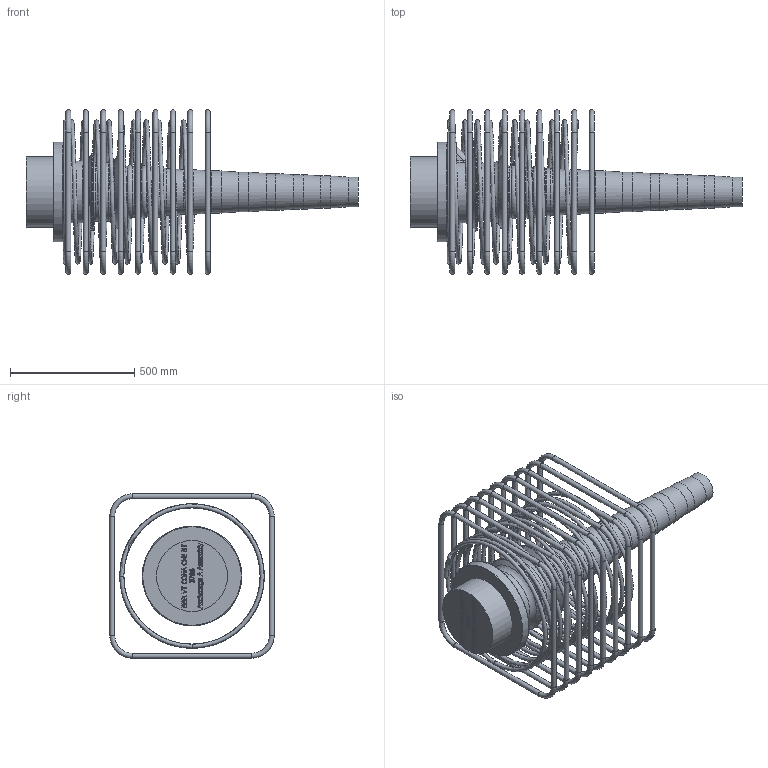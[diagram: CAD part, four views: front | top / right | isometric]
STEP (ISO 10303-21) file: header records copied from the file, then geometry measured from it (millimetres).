
FILE_DESCRIPTION(/* description */ (''),/* implementation_level */ '2;1');
FILE_NAME(/* name */ 'Z:\04 Publications\05 Give-out\BBR\6_3D_Models\BBR VT CONA CMI\BBR VT CONA CMI BT\03706\BBR VT CONA CMI BT 3706_Anchorage A Assembly_CS-34,28.stp',/* time_stamp */ '2017-05-05T10:51:31+02:00',/* author */ ('IP'),/* organization */ (''),/* preprocessor_version */ 'ST-DEVELOPER v16.1',/* originating_system */ 'Autodesk Inventor 2016',/* authorisation */ '');
FILE_SCHEMA (('AUTOMOTIVE_DESIGN { 1 0 10303 214 3 1 1 }'));
Length unit declared in the file: millimetre
Products named in the file (1): BBR VT CONA CMI BT 3706_Anchorage A Assembly_CS-34,28
Bounding box: 1333.56 x 660 x 660 mm (x, y, z)
Volume: 55084003.3 mm3; surface area: 3504198.5 mm2
Topology: 11 solids, 11 shells, 778 faces, 2013 edges, 1293 vertices
Faces by surface type: plane 323, bspline 307, torus 76, cylinder 59, cone 11, sphere 2
Full cylindrical faces by diameter (mm): 20 x36, 35 x1, 57 x1, 119 x1, 129 x1, 139 x1, 149 x1, 159 x1, 169 x1, 179 x1, 235 x1, 285 x1, 313 x1, 328 x1, 400 x1
Entity records: 30745 total; most frequent: CARTESIAN_POINT 13541, ORIENTED_EDGE 3752, DIRECTION 2365, EDGE_CURVE 1876, VERTEX_POINT 1285, LINE 1071, VECTOR 1071, EDGE_LOOP 963
